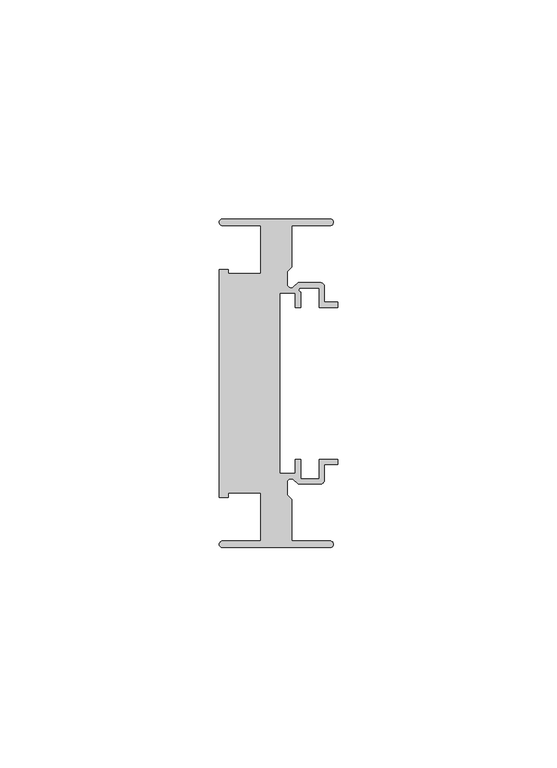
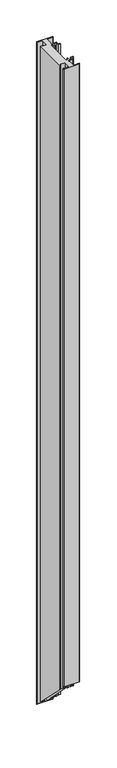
"""IFC4 building model written with IfcOpenShell, lengths in millimetres: member geometry, Прямоугольный импост : 7-AMG-2-Профиль 26Х75 Верх П."""

import ifcopenshell
import ifcopenshell.guid

model = None  # the IFC model being written
_history = None  # IfcOwnerHistory: only IFC2X3 demands one
_inside = {}  # id of a spatial element -> (the spatial element, [elements in it])
_under = {}  # id of a project, library or spatial element -> (it, [spatial elements below it])
_declared = {}  # id of a project -> (the project, [libraries it declares])
_typed = {}  # id of a type object -> (the type object, [elements of that type])
_made_of = {}  # id of a material, layer set ... -> (it, [elements and type objects made of it])


def new_model(schema):
    """Start an empty IFC model of exactly this schema.

    Asked for "IFC4X3", IfcOpenShell would pick the latest addendum, in which some entities
    have other attributes; the version numbers below select the first issue.
    IFC2X3 requires an IfcOwnerHistory on every rooted entity: one is made here for all.
    """
    global model, _history
    if schema == "IFC4X3":
        model = ifcopenshell.file(schema_version=(4, 3, 0, 0))
    else:
        model = ifcopenshell.file(schema=schema)
    _inside.clear()
    _under.clear()
    _declared.clear()
    _typed.clear()
    _made_of.clear()
    _history = None
    if model.schema == "IFC2X3":
        org = make("IfcOrganization", Name="unknown")
        user = make(
            "IfcPersonAndOrganization",
            ThePerson=make("IfcPerson", FamilyName="unknown"),
            TheOrganization=org,
        )
        app = make(
            "IfcApplication",
            ApplicationDeveloper=org,
            Version="unknown",
            ApplicationFullName="unknown",
            ApplicationIdentifier="unknown",
        )
        _history = make(
            "IfcOwnerHistory",
            OwningUser=user,
            OwningApplication=app,
            ChangeAction="ADDED",
            CreationDate=0,
        )
    return model


def make(cls, **values):
    """One entity of the class cls with the attributes given. An attribute that is None is left unset."""
    return model.create_entity(
        cls, **{name: value for name, value in values.items() if value is not None}
    )


def rooted(cls, **values):
    """An entity with a GlobalId (a new one), such as an element, a storey or a relation."""
    return make(cls, GlobalId=ifcopenshell.guid.new(), OwnerHistory=_history, **values)


def si_unit(unit_type, name, prefix=None):
    """IfcSIUnit, for example si_unit("LENGTHUNIT", "METRE", prefix="MILLI")."""
    return make("IfcSIUnit", UnitType=unit_type, Prefix=prefix, Name=name)


def assignment(units):
    """IfcUnitAssignment: the units of a project."""
    return None if units is None else make("IfcUnitAssignment", Units=units)


def point(xyz):
    """IfcCartesianPoint."""
    return None if xyz is None else make("IfcCartesianPoint", Coordinates=xyz)


def direction(xyz):
    """IfcDirection."""
    return None if xyz is None else make("IfcDirection", DirectionRatios=xyz)


def frame(location, z_axis=None, x_axis=None):
    """IfcAxis2Placement3D, a coordinate frame: its origin and axes. An axis left out is left unset."""
    return make(
        "IfcAxis2Placement3D",
        Location=point(location),
        Axis=direction(z_axis),
        RefDirection=direction(x_axis),
    )


def origin():
    """The frame at (0, 0, 0) with its axes left unset."""
    return frame((0.0, 0.0, 0.0))


def place(relative_to, where):
    """IfcLocalPlacement: puts the frame where relative to a parent placement (None: the world)."""
    return make(
        "IfcLocalPlacement", PlacementRelTo=relative_to, RelativePlacement=where
    )


def context(
    kind, dimensions, precision=None, world=None, true_north=None, identifier=None
):
    """IfcGeometricRepresentationContext, for example the 3D "Model" context."""
    return make(
        "IfcGeometricRepresentationContext",
        ContextIdentifier=identifier,
        ContextType=kind,
        CoordinateSpaceDimension=dimensions,
        Precision=precision,
        WorldCoordinateSystem=world,
        TrueNorth=true_north,
    )


def project(units=None, contexts=None):
    """IfcProject with its units and contexts."""
    return rooted(
        "IfcProject",
        Name="project",
        RepresentationContexts=contexts,
        UnitsInContext=assignment(units),
    )


def spatial(cls, under=None, at=None, **own):
    """A site, building, storey or space (cls), placed at a placement, below another one or the project."""
    s = rooted(cls, ObjectPlacement=at, **own)
    if under is not None:
        _under.setdefault(under.id(), (under, []))[1].append(s)
    return s


def polyline(points):
    """IfcPolyline through the points."""
    return make("IfcPolyline", Points=[point(p) for p in points])


def circle_curve(where, radius):
    """IfcCircle in the frame where."""
    return make("IfcCircle", Position=where, Radius=radius)


def ellipse_curve(where, semi_axis1, semi_axis2):
    """IfcEllipse in the frame where."""
    return make(
        "IfcEllipse", Position=where, SemiAxis1=semi_axis1, SemiAxis2=semi_axis2
    )


def shape(context_of_items, identifier, shape_type, items):
    """IfcShapeRepresentation: the items that make up one representation, for example the "Body"."""
    return make(
        "IfcShapeRepresentation",
        ContextOfItems=context_of_items,
        RepresentationIdentifier=identifier,
        RepresentationType=shape_type,
        Items=items,
    )


def source(mapping_origin, context_of_items, identifier, shape_type, items):
    """IfcRepresentationMap: a shape defined once, which mapped items show again and again."""
    return make(
        "IfcRepresentationMap",
        MappingOrigin=mapping_origin,
        MappedRepresentation=shape(context_of_items, identifier, shape_type, items),
    )


def transform(
    local_origin,
    x_axis=None,
    y_axis=None,
    z_axis=None,
    scale=None,
    scale2=None,
    scale3=None,
    uniform=True,
):
    """IfcCartesianTransformationOperator3D, or its non-uniform kind. x_axis, y_axis, z_axis: its Axis1, 2, 3."""
    if uniform:
        return make(
            "IfcCartesianTransformationOperator3D",
            Axis1=direction(x_axis),
            Axis2=direction(y_axis),
            LocalOrigin=point(local_origin),
            Scale=scale,
            Axis3=direction(z_axis),
        )
    return make(
        "IfcCartesianTransformationOperator3DnonUniform",
        Axis1=direction(x_axis),
        Axis2=direction(y_axis),
        LocalOrigin=point(local_origin),
        Scale=scale,
        Axis3=direction(z_axis),
        Scale2=scale2,
        Scale3=scale3,
    )


def mapped(mapping_source, mapping_target):
    """IfcMappedItem: shows the shape of a source again, moved by a transform."""
    return make(
        "IfcMappedItem", MappingSource=mapping_source, MappingTarget=mapping_target
    )


def made_of(thing, what):
    """Note that an element or type object is made of a material, layer set ...; save() writes the relation."""
    if what is not None:
        _made_of.setdefault(what.id(), (what, []))[1].append(thing)
    return thing


def element(
    cls,
    number,
    at=None,
    inside=None,
    cuts=None,
    type_object=None,
    material=None,
    context=None,
    identifier="Body",
    shape_type=None,
    held_by="IfcProductDefinitionShape",
    body=None,
    shapes=None,
    **own,
):
    """One element of the class cls, such as IfcWall. Its Tag is "e" and its number.

    at: its placement. inside: the storey or other place that contains it. cuts: it is an
    opening in that element (IfcRelVoidsElement). A single representation is given by context,
    identifier, shape_type and body (its items); several are given by shapes. held_by: the class
    of the entity that holds the representations. save() writes the other relations.
    """
    e = rooted(cls, Tag="e%d" % number, ObjectPlacement=at, **own)
    if body is not None:
        shapes = [shape(context, identifier, shape_type, body)]
    if shapes is not None:
        e.Representation = make(held_by, Representations=shapes)
    if inside is not None:
        _inside.setdefault(inside.id(), (inside, []))[1].append(e)
    if cuts is not None:
        rooted(
            "IfcRelVoidsElement", RelatingBuildingElement=cuts, RelatedOpeningElement=e
        )
    if type_object is not None:
        _typed.setdefault(type_object.id(), (type_object, []))[1].append(e)
    return made_of(e, material)


def aggregate(whole, parts):
    """IfcRelAggregates: a whole, such as a stair, and the parts it consists of."""
    return rooted("IfcRelAggregates", RelatingObject=whole, RelatedObjects=parts)


def save(model, path):
    """Write the relations noted so far, then the file.

    IfcRelAggregates (storeys below a building ...), IfcRelContainedInSpatialStructure (elements
    in a storey), IfcRelDefinesByType, IfcRelAssociatesMaterial and IfcRelDeclares: one each for
    every whole, place, type object, material and project.
    """
    for whole, parts in _under.values():
        aggregate(whole, parts)
    for where, things in _inside.values():
        rooted(
            "IfcRelContainedInSpatialStructure",
            RelatedElements=things,
            RelatingStructure=where,
        )
    for kind, things in _typed.values():
        rooted("IfcRelDefinesByType", RelatedObjects=things, RelatingType=kind)
    for what, things in _made_of.values():
        rooted("IfcRelAssociatesMaterial", RelatedObjects=things, RelatingMaterial=what)
    for by, libraries in _declared.values():
        rooted("IfcRelDeclares", RelatingContext=by, RelatedDefinitions=libraries)
    model.write(path)


def plane_surface(at):
    """IfcPlane: the flat surface through the origin of the frame at, square to its z axis."""
    return make("IfcPlane", Position=at)


def cylinder_surface(at, radius):
    """IfcCylindricalSurface: all points at the distance radius from the z axis of the frame at."""
    return make("IfcCylindricalSurface", Position=at, Radius=radius)


def revolved_surface(curve, axis_point, axis_direction):
    """IfcSurfaceOfRevolution: the curve turned about the line through axis_point along axis_direction."""
    return make(
        "IfcSurfaceOfRevolution",
        SweptCurve=make("IfcArbitraryOpenProfileDef", ProfileType="CURVE", Curve=curve),
        AxisPosition=make("IfcAxis1Placement", Location=point(axis_point), Axis=direction(axis_direction)),
    )


def advanced_brep(points, edges, surfaces, faces):
    """IfcAdvancedBrep: a solid bounded by faces that lie on surfaces and meet in shared edges.

    An edge is (start, end): straight between two places in points (the first is 0);
    or (start, end, curve); or (start, end, curve, False) where it runs against its curve.
    A face is (place in surfaces, loops), or (place, loops, False) where it looks against
    its surface's normal. A loop lists edges by number (the first is 1), with a minus sign
    where the edge is run from its end to its start. The first loop is the outer one.
    """
    corners = [point(p) for p in points]
    vertices = [make("IfcVertexPoint", VertexGeometry=c) for c in corners]
    made = []
    for start, end, *more in edges:
        made.append(
            make(
                "IfcEdgeCurve",
                EdgeStart=vertices[start],
                EdgeEnd=vertices[end],
                EdgeGeometry=more[0] if more else make("IfcPolyline", Points=[corners[start], corners[end]]),
                SameSense=more[1] if len(more) > 1 else True,
            )
        )
    hull = []
    for where, loops, *sense in faces:
        bounds = []
        for j, loop in enumerate(loops):
            ring = [make("IfcOrientedEdge", EdgeElement=made[abs(k) - 1], Orientation=k > 0) for k in loop]
            bounds.append(
                make(
                    "IfcFaceOuterBound" if j == 0 else "IfcFaceBound",
                    Bound=make("IfcEdgeLoop", EdgeList=ring),
                    Orientation=True,
                )
            )
        hull.append(make("IfcAdvancedFace", Bounds=bounds, FaceSurface=surfaces[where], SameSense=sense[0] if sense else True))
    return make("IfcAdvancedBrep", Outer=make("IfcClosedShell", CfsFaces=hull))


def member_475a050b(model_context):
    return source(origin(), model_context, "Body", "AdvancedBrep", [
        advanced_brep(
        [(-1.7, -37.5, 0.0), (-1.7, -36.0, 0.0), (-10.5, -36.0, 0.0), (-10.5, -26.5029437, 0.0), (-11.5, -25.5029437, 0.0), (-11.5, -22.6727922, 0.0), (-9.9636039, -22.0363961, 0.0), (-9.0, -23.0, 0.0), (-4.0, -23.0, 0.0), (-3.0, -22.0, 0.0), (-3.0, -18.55, 0.0), (0.0, -18.55, 0.0), (0.0, -17.35, 0.0), (-4.2, -17.35, 0.0), (-4.2, -21.8, 0.0), (-8.45, -21.8, 0.0), (-8.45, -17.35, 0.0), (-9.65, -17.35, 0.0), (-9.65, -20.55, 0.0), (-13.15, -20.55, 0.0), (-13.15, 20.55, 0.0), (-9.65, 20.55, 0.0), (-9.65, 17.35, 0.0), (-8.45, 17.35, 0.0), (-8.45, 20.8470563, 0.0), (-8.5029437, 21.8, 0.0), (-4.2, 21.8, 0.0), (-4.2, 17.35, 0.0), (0.0, 17.35, 0.0), (0.0, 18.55, 0.0), (-3.0, 18.55, 0.0), (-3.0, 22.0, 0.0), (-4.0, 23.0, 0.0), (-9.0, 23.0, 0.0), (-9.9636039, 22.0363961, 0.0), (-11.5, 22.6727922, 0.0), (-11.5, 25.5029437, 0.0), (-10.5, 26.5029437, 0.0), (-10.5, 36.0, 0.0), (-1.7, 36.0, 0.0), (-1.7, 37.5, 0.0), (-26.25, 37.5, 0.0), (-26.25, 36.0, 0.0), (-17.5, 36.0, 0.0), (-17.5, 25.0, 0.0), (-24.9359877, 25.0, 0.0), (-24.9359877, 26.0, 0.0), (-27.0, 26.0, 0.0), (-27.0, -26.0, 0.0), (-24.9359877, -26.0, 0.0), (-24.9359877, -25.0, 0.0), (-17.5, -25.0, 0.0), (-17.5, -36.0, 0.0), (-26.25, -36.0, 0.0), (-26.25, -37.5, 0.0), (-1.7, -37.5, -1035.5), (-1.7, -36.0, -1037.0), (-10.5, -36.0, -1037.0), (-10.5, -26.5029437, -1046.4970563), (-11.5, -25.5029437, -1047.4970563), (-11.5, -22.6727922, -1050.3272078), (-9.9636039, -22.0363961, -1050.9636039), (-9.0, -23.0, -1050.0), (-4.0, -23.0, -1050.0), (-3.0, -22.0, -1051.0), (-3.0, -18.55, -1054.45), (0.0, -18.55, -1054.45), (0.0, -17.35, -1055.65), (-4.2, -17.35, -1055.65), (-4.2, -21.8, -1051.2), (-8.45, -21.8, -1051.2), (-8.45, -17.35, -1055.65), (-9.65, -17.35, -1055.65), (-9.65, -20.55, -1052.45), (-13.15, -20.55, -1052.45), (-13.15, 20.55, -1093.55), (-9.65, 20.55, -1093.55), (-9.65, 17.35, -1090.35), (-8.45, 17.35, -1090.35), (-8.45, 20.8470563, -1093.8470563), (-8.5029437, 21.8, -1094.8), (-4.2, 21.8, -1094.8), (-4.2, 17.35, -1090.35), (0.0, 17.35, -1090.35), (0.0, 18.55, -1091.55), (-3.0, 18.55, -1091.55), (-3.0, 22.0, -1095.0), (-4.0, 23.0, -1096.0), (-9.0, 23.0, -1096.0), (-9.9636039, 22.0363961, -1095.0363961), (-11.5, 22.6727922, -1095.6727922), (-11.5, 25.5029437, -1098.5029437), (-10.5, 26.5029437, -1099.5029437), (-10.5, 36.0, -1109.0), (-1.7, 36.0, -1109.0), (-1.7, 37.5, -1110.5), (-26.25, 37.5, -1110.5), (-26.25, 36.0, -1109.0), (-17.5, 36.0, -1109.0), (-17.5, 25.0, -1098.0), (-24.9359877, 25.0, -1098.0), (-24.9359877, 26.0, -1099.0), (-27.0, 26.0, -1099.0), (-27.0, -26.0, -1047.0), (-24.9359877, -26.0, -1047.0), (-24.9359877, -25.0, -1048.0), (-17.5, -25.0, -1048.0), (-17.5, -36.0, -1037.0), (-26.25, -36.0, -1037.0), (-26.25, -37.5, -1035.5)],
        [
            (0, 1, circle_curve(frame((-1.7, -36.75, 0.0), z_axis=(0.0, 0.0, 1.0), x_axis=(-1.0, 0.0, 0.0)), 0.75)),
            (1, 2),
            (2, 3),
            (3, 4),
            (4, 5),
            (5, 6, circle_curve(frame((-10.6, -22.6727922, 0.0), z_axis=(0.0, 0.0, -1.0), x_axis=(1.0, 0.0, 0.0)), 0.9)),
            (6, 7),
            (7, 8),
            (8, 9, circle_curve(frame((-4.0, -22.0, 0.0), z_axis=(0.0, 0.0, 1.0), x_axis=(1.0, 0.0, 0.0)), 1.0)),
            (9, 10),
            (10, 11),
            (11, 12),
            (12, 13),
            (13, 14),
            (14, 15),
            (15, 16),
            (16, 17),
            (17, 18),
            (18, 19),
            (19, 20),
            (20, 21),
            (21, 22),
            (22, 23),
            (23, 24),
            (24, 25, circle_curve(frame((-8.3343131, 21.3314262, 0.0), z_axis=(0.0, 0.0, -1.0), x_axis=(1.0, 0.0, 0.0)), 0.4979937)),
            (25, 26),
            (26, 27),
            (27, 28),
            (28, 29),
            (29, 30),
            (30, 31),
            (31, 32, circle_curve(frame((-4.0, 22.0, 0.0), z_axis=(0.0, 0.0, 1.0), x_axis=(1.0, 0.0, 0.0)), 1.0)),
            (32, 33),
            (33, 34),
            (34, 35, circle_curve(frame((-10.6, 22.6727922, 0.0), z_axis=(0.0, 0.0, -1.0), x_axis=(1.0, 0.0, 0.0)), 0.9)),
            (35, 36),
            (36, 37),
            (37, 38),
            (38, 39),
            (39, 40, circle_curve(frame((-1.7, 36.75, 0.0), z_axis=(0.0, 0.0, 1.0), x_axis=(-1.0, 0.0, 0.0)), 0.75)),
            (40, 41),
            (41, 42, circle_curve(frame((-26.25, 36.75, 0.0), z_axis=(0.0, 0.0, 1.0), x_axis=(-1.0, 0.0, 0.0)), 0.75)),
            (42, 43),
            (43, 44),
            (44, 45),
            (45, 46),
            (46, 47),
            (47, 48),
            (48, 49),
            (49, 50),
            (50, 51),
            (51, 52),
            (52, 53),
            (53, 54, circle_curve(frame((-26.25, -36.75, 0.0), z_axis=(0.0, 0.0, 1.0), x_axis=(-1.0, 0.0, 0.0)), 0.75)),
            (54, 0),
            (0, 55),
            (55, 56, ellipse_curve(frame((-1.7, -36.75, -1036.25), z_axis=(0.0, 0.7071067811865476, 0.7071067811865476), x_axis=(0.0, -0.7071067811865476, 0.7071067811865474)), 1.0606602, 0.75)),
            (56, 1),
            (56, 57),
            (57, 2),
            (57, 58),
            (58, 3),
            (58, 59),
            (59, 4),
            (59, 60),
            (60, 5),
            (60, 61, ellipse_curve(frame((-10.6, -22.6727922, -1050.3272078), z_axis=(0.0, -0.7071067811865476, -0.7071067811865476), x_axis=(0.0, 0.7071067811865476, -0.7071067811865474)), 1.2727922, 0.9)),
            (61, 6),
            (61, 62),
            (62, 7),
            (62, 63),
            (63, 8),
            (63, 64, ellipse_curve(frame((-4.0, -22.0, -1051.0), z_axis=(0.0, 0.7071067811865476, 0.7071067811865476), x_axis=(0.0, -0.7071067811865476, 0.7071067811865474)), 1.4142136, 1.0)),
            (64, 9),
            (64, 65),
            (65, 10),
            (65, 66),
            (66, 11),
            (66, 67),
            (67, 12),
            (67, 68),
            (68, 13),
            (68, 69),
            (69, 14),
            (69, 70),
            (70, 15),
            (70, 71),
            (71, 16),
            (71, 72),
            (72, 17),
            (72, 73),
            (73, 18),
            (73, 74),
            (74, 19),
            (74, 75),
            (75, 20),
            (75, 76),
            (76, 21),
            (76, 77),
            (77, 22),
            (77, 78),
            (78, 23),
            (78, 79),
            (79, 24),
            (79, 80, ellipse_curve(frame((-8.3343131, 21.3314262, -1094.3314262), z_axis=(0.0, -0.7071067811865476, -0.7071067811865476), x_axis=(0.0, 0.7071067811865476, -0.7071067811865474)), 0.7042694, 0.4979937)),
            (80, 25),
            (80, 81),
            (81, 26),
            (81, 82),
            (82, 27),
            (82, 83),
            (83, 28),
            (83, 84),
            (84, 29),
            (84, 85),
            (85, 30),
            (85, 86),
            (86, 31),
            (86, 87, ellipse_curve(frame((-4.0, 22.0, -1095.0), z_axis=(0.0, 0.7071067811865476, 0.7071067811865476), x_axis=(0.0, -0.7071067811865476, 0.7071067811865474)), 1.4142136, 1.0)),
            (87, 32),
            (87, 88),
            (88, 33),
            (88, 89),
            (89, 34),
            (89, 90, ellipse_curve(frame((-10.6, 22.6727922, -1095.6727922), z_axis=(0.0, -0.7071067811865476, -0.7071067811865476), x_axis=(0.0, 0.7071067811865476, -0.7071067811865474)), 1.2727922, 0.9)),
            (90, 35),
            (90, 91),
            (91, 36),
            (91, 92),
            (92, 37),
            (92, 93),
            (93, 38),
            (93, 94),
            (94, 39),
            (94, 95, ellipse_curve(frame((-1.7, 36.75, -1109.75), z_axis=(0.0, 0.7071067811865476, 0.7071067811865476), x_axis=(0.0, -0.7071067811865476, 0.7071067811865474)), 1.0606602, 0.75)),
            (95, 40),
            (95, 96),
            (96, 41),
            (96, 97, ellipse_curve(frame((-26.25, 36.75, -1109.75), z_axis=(0.0, 0.7071067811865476, 0.7071067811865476), x_axis=(0.0, -0.7071067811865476, 0.7071067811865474)), 1.0606602, 0.75)),
            (97, 42),
            (97, 98),
            (98, 43),
            (98, 99),
            (99, 44),
            (99, 100),
            (100, 45),
            (100, 101),
            (101, 46),
            (101, 102),
            (102, 47),
            (102, 103),
            (103, 48),
            (103, 104),
            (104, 49),
            (104, 105),
            (105, 50),
            (105, 106),
            (106, 51),
            (106, 107),
            (107, 52),
            (107, 108),
            (108, 53),
            (108, 109, ellipse_curve(frame((-26.25, -36.75, -1036.25), z_axis=(0.0, 0.7071067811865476, 0.7071067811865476), x_axis=(0.0, -0.7071067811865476, 0.7071067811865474)), 1.0606602, 0.75)),
            (109, 54),
            (109, 55),
        ],
        [
            plane_surface(frame((0.0, -45.7745836, 0.0), z_axis=(0.0, 0.0, 1.0), x_axis=(-1.0, 0.0, 0.0))),
            cylinder_surface(frame((-1.7, -36.75, 0.0), z_axis=(0.0, 0.0, 1.0), x_axis=(-1.0, 0.0, 0.0)), 0.75),
            plane_surface(frame((-1.7, -36.0, 0.0), z_axis=(0.0, 1.0, 0.0), x_axis=(0.0, 0.0, -1.0))),
            plane_surface(frame((-10.5, -36.0, 0.0), z_axis=(1.0, 0.0, 0.0), x_axis=(0.0, 0.0, -1.0))),
            plane_surface(frame((-10.5, -26.5029437, 0.0), z_axis=(0.7071067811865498, 0.7071067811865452, 0.0), x_axis=(0.0, 0.0, -1.0))),
            plane_surface(frame((-11.5, -25.5029437, 0.0), z_axis=(1.0, 0.0, 0.0), x_axis=(0.0, 0.0, -1.0))),
            revolved_surface(polyline([(-9.7, -22.6727922, -1051.2272077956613), (-9.7, -22.6727922, 0.0)]), (-10.6, -22.6727922, 0.0), (0.0, 0.0, -1.0)),
            plane_surface(frame((-9.9636039, -22.0363961, 0.0), z_axis=(-0.7071067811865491, -0.707106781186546, 0.0), x_axis=(0.0, 0.0, -1.0))),
            plane_surface(frame((-9.0, -23.0, 0.0), z_axis=(0.0, -1.0, 0.0), x_axis=(0.0, 0.0, -1.0))),
            cylinder_surface(frame((-4.0, -22.0, 0.0), z_axis=(0.0, 0.0, 1.0), x_axis=(1.0, 0.0, 0.0)), 1.0),
            plane_surface(frame((-3.0, -22.0, 0.0), z_axis=(1.0, 0.0, 0.0), x_axis=(0.0, 0.0, -1.0))),
            plane_surface(frame((-3.0, -18.55, 0.0), z_axis=(0.0, -1.0, 0.0), x_axis=(0.0, 0.0, -1.0))),
            plane_surface(frame((0.0, -18.55, 0.0), z_axis=(1.0, 0.0, 0.0), x_axis=(0.0, 0.0, -1.0))),
            plane_surface(frame((0.0, -17.35, 0.0), z_axis=(0.0, 1.0, 0.0), x_axis=(0.0, 0.0, -1.0))),
            plane_surface(frame((-4.2, -17.35, 0.0), z_axis=(-1.0, 0.0, 0.0), x_axis=(0.0, 0.0, -1.0))),
            plane_surface(frame((-4.2, -21.8, 0.0), z_axis=(0.0, 1.0, 0.0), x_axis=(0.0, 0.0, -1.0))),
            plane_surface(frame((-8.45, -21.8, 0.0), z_axis=(1.0, 0.0, 0.0), x_axis=(0.0, 0.0, -1.0))),
            plane_surface(frame((-8.45, -17.35, 0.0), z_axis=(0.0, 1.0, 0.0), x_axis=(0.0, 0.0, -1.0))),
            plane_surface(frame((-9.65, -17.35, 0.0), z_axis=(-1.0, 0.0, 0.0), x_axis=(0.0, 0.0, -1.0))),
            plane_surface(frame((-9.65, -20.55, 0.0), z_axis=(0.0, 1.0, 0.0), x_axis=(0.0, 0.0, -1.0))),
            plane_surface(frame((-13.15, -20.55, 0.0), z_axis=(1.0, 0.0, 0.0), x_axis=(0.0, 0.0, -1.0))),
            plane_surface(frame((-13.15, 20.55, 0.0), z_axis=(0.0, -1.0, 0.0), x_axis=(0.0, 0.0, -1.0))),
            plane_surface(frame((-9.65, 20.55, 0.0), z_axis=(-1.0, 0.0, 0.0), x_axis=(0.0, 0.0, -1.0))),
            plane_surface(frame((-9.65, 17.35, 0.0), z_axis=(0.0, -1.0, 0.0), x_axis=(0.0, 0.0, -1.0))),
            plane_surface(frame((-8.45, 17.35, 0.0), z_axis=(1.0, 0.0, 0.0), x_axis=(0.0, 0.0, -1.0))),
            revolved_surface(polyline([(-7.836319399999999, 21.3314262, -1094.829419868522), (-7.836319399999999, 21.3314262, 0.0)]), (-8.3343131, 21.3314262, 0.0), (0.0, 0.0, -1.0)),
            plane_surface(frame((-8.5029437, 21.8, 0.0), z_axis=(0.0, -1.0, 0.0), x_axis=(0.0, 0.0, -1.0))),
            plane_surface(frame((-4.2, 21.8, 0.0), z_axis=(-1.0, 0.0, 0.0), x_axis=(0.0, 0.0, -1.0))),
            plane_surface(frame((-4.2, 17.35, 0.0), z_axis=(0.0, -1.0, 0.0), x_axis=(0.0, 0.0, -1.0))),
            plane_surface(frame((0.0, 17.35, 0.0), z_axis=(1.0, 0.0, 0.0), x_axis=(0.0, 0.0, -1.0))),
            plane_surface(frame((0.0, 18.55, 0.0), z_axis=(0.0, 1.0, 0.0), x_axis=(0.0, 0.0, -1.0))),
            plane_surface(frame((-3.0, 18.55, 0.0), z_axis=(1.0, 0.0, 0.0), x_axis=(0.0, 0.0, -1.0))),
            cylinder_surface(frame((-4.0, 22.0, 0.0), z_axis=(0.0, 0.0, 1.0), x_axis=(1.0, 0.0, 0.0)), 1.0),
            plane_surface(frame((-4.0, 23.0, 0.0), z_axis=(0.0, 1.0, 0.0), x_axis=(0.0, 0.0, -1.0))),
            plane_surface(frame((-9.0, 23.0, 0.0), z_axis=(-0.7071067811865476, 0.7071067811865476, 0.0), x_axis=(0.0, 0.0, -1.0))),
            revolved_surface(polyline([(-9.7, 22.6727922, -1096.5727921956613), (-9.7, 22.6727922, 0.0)]), (-10.6, 22.6727922, 0.0), (0.0, 0.0, -1.0)),
            plane_surface(frame((-11.5, 22.6727922, 0.0), z_axis=(1.0, 0.0, 0.0), x_axis=(0.0, 0.0, -1.0))),
            plane_surface(frame((-11.5, 25.5029437, 0.0), z_axis=(0.7071067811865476, -0.7071067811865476, 0.0), x_axis=(0.0, 0.0, -1.0))),
            plane_surface(frame((-10.5, 26.5029437, 0.0), z_axis=(1.0, 0.0, 0.0), x_axis=(0.0, 0.0, -1.0))),
            plane_surface(frame((-10.5, 36.0, 0.0), z_axis=(0.0, -1.0, 0.0), x_axis=(0.0, 0.0, -1.0))),
            cylinder_surface(frame((-1.7, 36.75, 0.0), z_axis=(0.0, 0.0, 1.0), x_axis=(-1.0, 0.0, 0.0)), 0.75),
            plane_surface(frame((-1.7, 37.5, 0.0), z_axis=(0.0, 1.0, 0.0), x_axis=(0.0, 0.0, -1.0))),
            cylinder_surface(frame((-26.25, 36.75, 0.0), z_axis=(0.0, 0.0, 1.0), x_axis=(-1.0, 0.0, 0.0)), 0.75),
            plane_surface(frame((-26.25, 36.0, 0.0), z_axis=(0.0, -1.0, 0.0), x_axis=(0.0, 0.0, -1.0))),
            plane_surface(frame((-17.5, 36.0, 0.0), z_axis=(-1.0, 0.0, 0.0), x_axis=(0.0, 0.0, -1.0))),
            plane_surface(frame((-17.5, 25.0, 0.0), z_axis=(0.0, 1.0, 0.0), x_axis=(0.0, 0.0, -1.0))),
            plane_surface(frame((-24.9359877, 25.0, 0.0), z_axis=(1.0, 0.0, 0.0), x_axis=(0.0, 0.0, -1.0))),
            plane_surface(frame((-24.9359877, 26.0, 0.0), z_axis=(0.0, 1.0, 0.0), x_axis=(0.0, 0.0, -1.0))),
            plane_surface(frame((-27.0, 26.0, 0.0), z_axis=(-1.0, 0.0, 0.0), x_axis=(0.0, 0.0, -1.0))),
            plane_surface(frame((-27.0, -26.0, 0.0), z_axis=(0.0, -1.0, 0.0), x_axis=(0.0, 0.0, -1.0))),
            plane_surface(frame((-24.9359877, -26.0, 0.0), z_axis=(1.0, 0.0, 0.0), x_axis=(0.0, 0.0, -1.0))),
            plane_surface(frame((-24.9359877, -25.0, 0.0), z_axis=(0.0, -1.0, 0.0), x_axis=(0.0, 0.0, -1.0))),
            plane_surface(frame((-17.5, -25.0, 0.0), z_axis=(-1.0, 0.0, 0.0), x_axis=(0.0, 0.0, -1.0))),
            plane_surface(frame((-17.5, -36.0, 0.0), z_axis=(0.0, 1.0, 0.0), x_axis=(0.0, 0.0, -1.0))),
            cylinder_surface(frame((-26.25, -36.75, 0.0), z_axis=(0.0, 0.0, 1.0), x_axis=(-1.0, 0.0, 0.0)), 0.75),
            plane_surface(frame((-26.25, -37.5, 0.0), z_axis=(0.0, -1.0, 0.0), x_axis=(0.0, 0.0, -1.0))),
            plane_surface(frame((304.8, 0.0, -1073.0), z_axis=(0.0, -0.7071067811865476, -0.7071067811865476), x_axis=(0.0, -0.7071067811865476, 0.7071067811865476))),
        ],
        [
            (0, [[1, 2, 3, 4, 5, 6, 7, 8, 9, 10, 11, 12, 13, 14, 15, 16, 17, 18, 19, 20, 21, 22, 23, 24, 25, 26, 27, 28, 29, 30, 31, 32, 33, 34, 35, 36, 37, 38, 39, 40, 41, 42, 43, 44, 45, 46, 47, 48, 49, 50, 51, 52, 53, 54, 55]]),
            (1, [[-1, 56, 57, 58]]),
            (2, [[-2, -58, 59, 60]]),
            (3, [[-3, -60, 61, 62]]),
            (4, [[-4, -62, 63, 64]]),
            (5, [[-5, -64, 65, 66]]),
            (6, [[-6, -66, 67, 68]]),
            (7, [[-7, -68, 69, 70]]),
            (8, [[-8, -70, 71, 72]]),
            (9, [[-9, -72, 73, 74]]),
            (10, [[-10, -74, 75, 76]]),
            (11, [[-11, -76, 77, 78]]),
            (12, [[-12, -78, 79, 80]]),
            (13, [[-13, -80, 81, 82]]),
            (14, [[-14, -82, 83, 84]]),
            (15, [[-15, -84, 85, 86]]),
            (16, [[-16, -86, 87, 88]]),
            (17, [[-17, -88, 89, 90]]),
            (18, [[-18, -90, 91, 92]]),
            (19, [[-19, -92, 93, 94]]),
            (20, [[-20, -94, 95, 96]]),
            (21, [[-21, -96, 97, 98]]),
            (22, [[-22, -98, 99, 100]]),
            (23, [[-23, -100, 101, 102]]),
            (24, [[-24, -102, 103, 104]]),
            (25, [[-25, -104, 105, 106]]),
            (26, [[-26, -106, 107, 108]]),
            (27, [[-27, -108, 109, 110]]),
            (28, [[-28, -110, 111, 112]]),
            (29, [[-29, -112, 113, 114]]),
            (30, [[-30, -114, 115, 116]]),
            (31, [[-31, -116, 117, 118]]),
            (32, [[-32, -118, 119, 120]]),
            (33, [[-33, -120, 121, 122]]),
            (34, [[-34, -122, 123, 124]]),
            (35, [[-35, -124, 125, 126]]),
            (36, [[-36, -126, 127, 128]]),
            (37, [[-37, -128, 129, 130]]),
            (38, [[-38, -130, 131, 132]]),
            (39, [[-39, -132, 133, 134]]),
            (40, [[-40, -134, 135, 136]]),
            (41, [[-41, -136, 137, 138]]),
            (42, [[-42, -138, 139, 140]]),
            (43, [[-43, -140, 141, 142]]),
            (44, [[-44, -142, 143, 144]]),
            (45, [[-45, -144, 145, 146]]),
            (46, [[-46, -146, 147, 148]]),
            (47, [[-47, -148, 149, 150]]),
            (48, [[-48, -150, 151, 152]]),
            (49, [[-49, -152, 153, 154]]),
            (50, [[-50, -154, 155, 156]]),
            (51, [[-51, -156, 157, 158]]),
            (52, [[-52, -158, 159, 160]]),
            (53, [[-53, -160, 161, 162]]),
            (54, [[-54, -162, 163, 164]]),
            (55, [[-55, -164, 165, -56]]),
            (56, [[-165, -163, -161, -159, -157, -155, -153, -151, -149, -147, -145, -143, -141, -139, -137, -135, -133, -131, -129, -127, -125, -123, -121, -119, -117, -115, -113, -111, -109, -107, -105, -103, -101, -99, -97, -95, -93, -91, -89, -87, -85, -83, -81, -79, -77, -75, -73, -71, -69, -67, -65, -63, -61, -59, -57]]),
        ],
    ),
    ])


if __name__ == "__main__":
    model = new_model("IFC4")
    model_context = context("Model", 3, world=origin())
    ifc_project = project(units=[si_unit("LENGTHUNIT", "METRE", prefix="MILLI")], contexts=[model_context])
    site = spatial("IfcSite", under=ifc_project)
    building = spatial("IfcBuilding", under=site)
    placement = place(None, origin())
    member_shape = member_475a050b(model_context)
    element("IfcMember", 1, ObjectType="Прямоугольный импост : 7-AMG-2-Профиль 26Х75 Верх П", at=placement, inside=building, context=model_context, shape_type="MappedRepresentation", body=[
        mapped(member_shape, transform((0.0, 0.0, 0.0), x_axis=(1.0, 0.0, 0.0), y_axis=(0.0, 1.0, 0.0), z_axis=(0.0, 0.0, 1.0))),
    ])
    save(model, "model.ifc")
